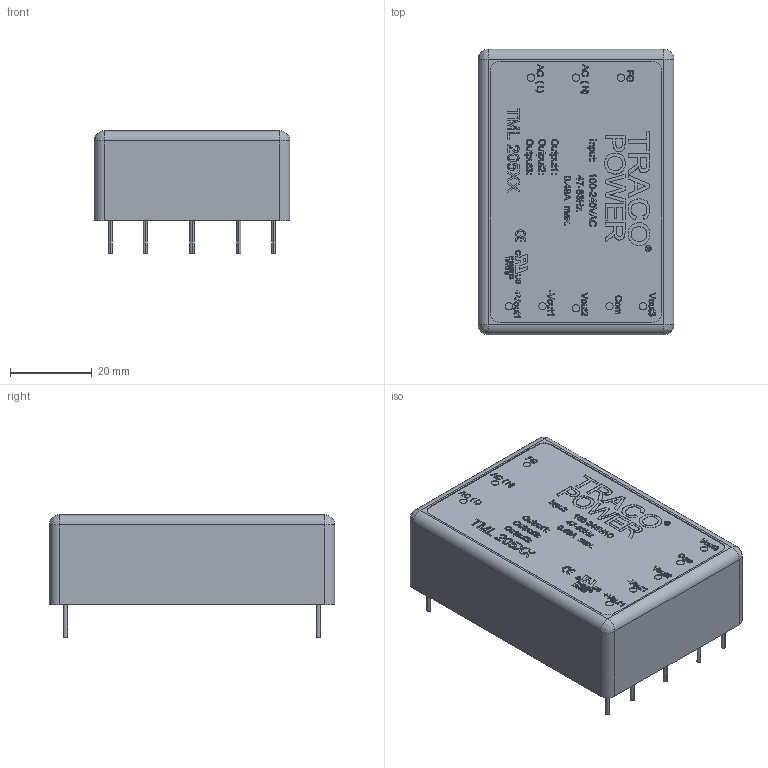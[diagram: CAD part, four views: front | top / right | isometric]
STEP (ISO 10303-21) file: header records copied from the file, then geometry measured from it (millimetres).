
FILE_DESCRIPTION (( 'STEP AP214' ), '1' );
FILE_NAME ('tml20-triple.STEP', '2015-02-19T14:30:39', ( '' ), ( '' ), 'SwSTEP 2.0', 'SolidWorks 2013', '' );
FILE_SCHEMA (( 'AUTOMOTIVE_DESIGN' ));
Length unit declared in the file: millimetre
Products named in the file (5): TML20; TML20 B; TML20 T; tml20_triple; tml20-triple
Assembly tree (4 placements, depth 3):
  tml20-triple
    TML20
      tml20_triple
      TML20 T
      TML20 B
Bounding box: 48 x 70 x 30 mm (x, y, z)
Volume: 13476.2 mm3; surface area: 29270.8 mm2
Topology: 3 solids, 3 shells, 1847 faces, 4903 edges, 3250 vertices
Faces by surface type: plane 1128, bspline 623, cylinder 96
Entity records: 131555 total; most frequent: CARTESIAN_POINT 69206, ORIENTED_EDGE 9790, DIRECTION 6353, EDGE_CURVE 4895, VECTOR 3473, LINE 3473, VERTEX_POINT 3250, EDGE_LOOP 2059
